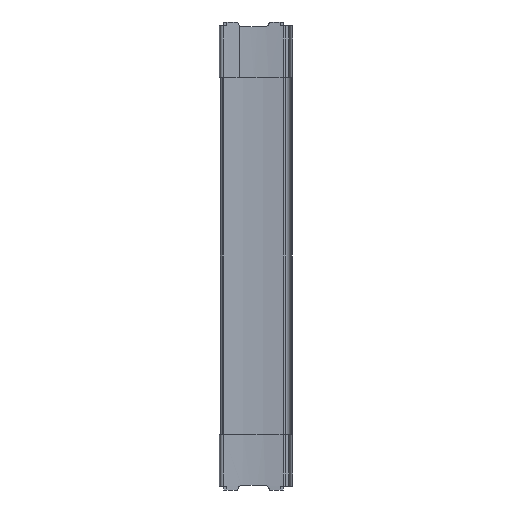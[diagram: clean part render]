
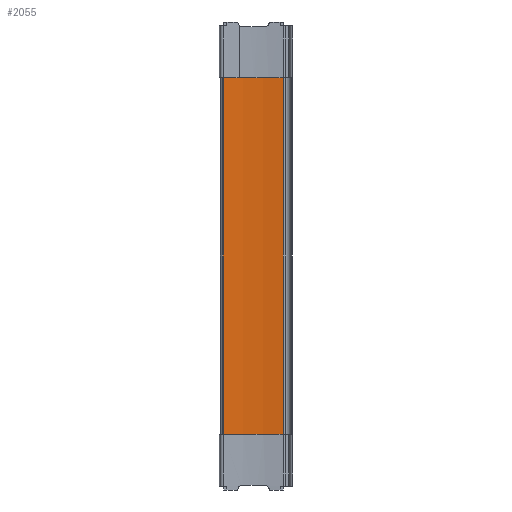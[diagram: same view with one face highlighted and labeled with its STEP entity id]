
A CAD part, left-side view. The second image highlights one B-rep face of the part: STEP entity #2055.
In plain terms, the highlighted cylindrical face has radius 250 mm (diameter 500 mm), a partial arc.
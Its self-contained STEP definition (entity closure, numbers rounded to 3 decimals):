
#183 = LINE ( 'NONE', #3243, #186 ) ;
#186 = VECTOR ( 'NONE', #3246, 1000. ) ;
#604 = EDGE_CURVE ( 'NONE', #3560, #3364, #183, .T. ) ;
#866 = AXIS2_PLACEMENT_3D ( 'NONE', #3991, #3990, #3989 ) ;
#1232 = CYLINDRICAL_SURFACE ( 'NONE', #866, 250. ) ;
#1235 = FACE_OUTER_BOUND ( 'NONE', #1875, .T. ) ;
#1430 = LINE ( 'NONE', #2175, #1436 ) ;
#1436 = VECTOR ( 'NONE', #2188, 1000. ) ;
#1443 = CIRCLE ( 'NONE', #2935, 250. ) ;
#1542 = CIRCLE ( 'NONE', #2957, 250. ) ;
#1807 = ORIENTED_EDGE ( 'NONE', *, *, #3046, .F. ) ;
#1812 = ORIENTED_EDGE ( 'NONE', *, *, #3116, .F. ) ;
#1875 = EDGE_LOOP ( 'NONE', ( #1812, #1807, #1928, #1929 ) ) ;
#1928 = ORIENTED_EDGE ( 'NONE', *, *, #3049, .F. ) ;
#1929 = ORIENTED_EDGE ( 'NONE', *, *, #604, .T. ) ;
#2055 = ADVANCED_FACE ( 'NONE', ( #1235 ), #1232, .F. ) ;
#2175 = CARTESIAN_POINT ( 'NONE',  ( -8.643, 8.331, 170.3 ) ) ;
#2187 = CARTESIAN_POINT ( 'NONE',  ( -255.319, 48.963, 164.3 ) ) ;
#2188 = DIRECTION ( 'NONE',  ( 0., 0., -1. ) ) ;
#2194 = DIRECTION ( 'NONE',  ( 0., 0., -1. ) ) ;
#2195 = DIRECTION ( 'NONE',  ( 1., 0., 0. ) ) ;
#2397 = CARTESIAN_POINT ( 'NONE',  ( -255.319, 48.963, -164.3 ) ) ;
#2399 = DIRECTION ( 'NONE',  ( 0., 0., 1. ) ) ;
#2400 = DIRECTION ( 'NONE',  ( -1., 0., 0. ) ) ;
#2612 = CARTESIAN_POINT ( 'NONE',  ( -5.747, 63.571, -164.3 ) ) ;
#2730 = CARTESIAN_POINT ( 'NONE',  ( -5.747, 63.571, 164.3 ) ) ;
#2785 = CARTESIAN_POINT ( 'NONE',  ( -8.643, 8.331, -164.3 ) ) ;
#2786 = CARTESIAN_POINT ( 'NONE',  ( -8.643, 8.331, 164.3 ) ) ;
#2935 = AXIS2_PLACEMENT_3D ( 'NONE', #2187, #2194, #2195 ) ;
#2957 = AXIS2_PLACEMENT_3D ( 'NONE', #2397, #2399, #2400 ) ;
#3046 = EDGE_CURVE ( 'NONE', #3616, #3615, #1430, .T. ) ;
#3049 = EDGE_CURVE ( 'NONE', #3560, #3616, #1443, .T. ) ;
#3116 = EDGE_CURVE ( 'NONE', #3615, #3364, #1542, .T. ) ;
#3243 = CARTESIAN_POINT ( 'NONE',  ( -5.747, 63.571, 170.3 ) ) ;
#3246 = DIRECTION ( 'NONE',  ( 0., 0., -1. ) ) ;
#3364 = VERTEX_POINT ( 'NONE', #2612 ) ;
#3560 = VERTEX_POINT ( 'NONE', #2730 ) ;
#3615 = VERTEX_POINT ( 'NONE', #2785 ) ;
#3616 = VERTEX_POINT ( 'NONE', #2786 ) ;
#3989 = DIRECTION ( 'NONE',  ( -1., 0., 0. ) ) ;
#3990 = DIRECTION ( 'NONE',  ( 0., 0., -1. ) ) ;
#3991 = CARTESIAN_POINT ( 'NONE',  ( -255.319, 48.963, 170.3 ) ) ;
